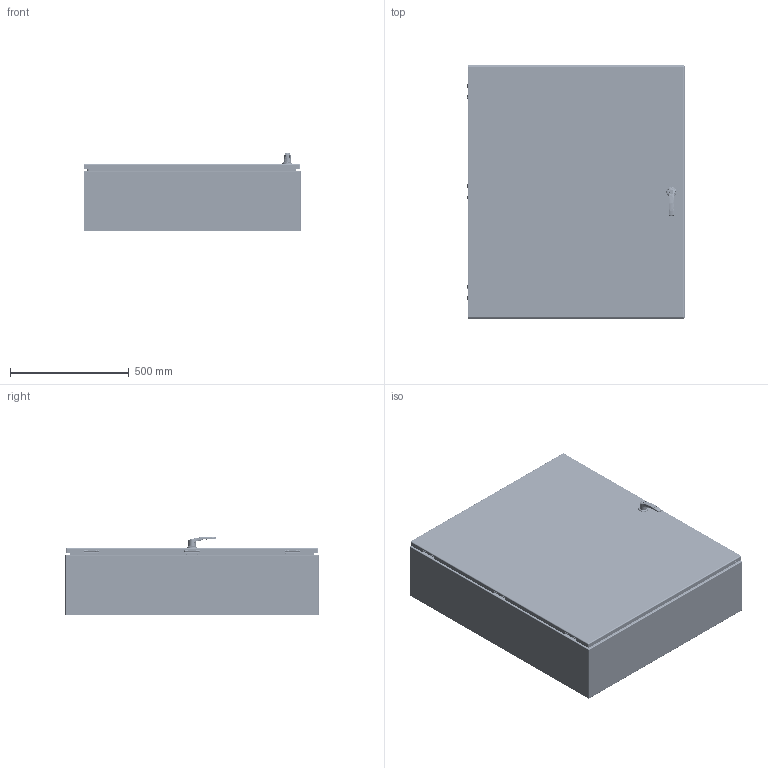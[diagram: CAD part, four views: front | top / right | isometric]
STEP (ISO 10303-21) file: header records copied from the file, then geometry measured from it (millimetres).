
FILE_DESCRIPTION(/* description */ ('5412ES 42" x 36" x 10" Assembly'),/* implementation_level */ '2;1');
FILE_NAME(/* name */ 'C:\Vault_Workspace\Inventor_Dwg\BoxCad\Result\5412ESB423610\e-mail\3D\5412ESB423610.stp',/* time_stamp */ '2022-03-21T18:07:07-04:00',/* author */ ('BoxCad'),/* organization */ (''),/* preprocessor_version */ 'ST-DEVELOPER v18.1',/* originating_system */ 'Autodesk Inventor 2020',/* authorisation */ '');
FILE_SCHEMA (('AUTOMOTIVE_DESIGN { 1 0 10303 214 3 1 1 }'));
Products named in the file (59): 5412ESB423610; 5412ESB423610B; 5412ESB423610B-P; STK-Q-16005; STUD_M6 x 16mm; STK-Q-07610; 881SP4236G; 881SP4236G-P; STK-Q-07310; 5412ESB423610C; 5412ESB423610C-P; 5412ESB423610G; STK-K-09800; STK-K-09800-2; STK-K-09800-3; STK-Q-33014; STK-Q-90398; STK-Q-40095; STK-Q-63410; STK-Q-16405; STK-Q-46020-42; STK-Q-46025-36-3; STK-Q-07220-1; STK-Q-07220-2; STK-Q-07220-3; STK-Q-07220-4; STK-Q-07220-5; STK-Q-07220-6; STK-Q-07220-7; STK-Q-07220-8; STK-Q-07220-9; STK-Q-07220-10; STK-Q-07220-A; STK-Q-07220-B; STK-Q-16055; STK-Q-46515-1; STK-Q-46515-B; STK-Q-46515-A; STK-P-03820R; STK-S-00100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
Assembly tree (131 placements, depth 4):
  5412ESB423610
    5412ESB423610B
      5412ESB423610B-P
      STK-Q-16005  x8
      STK-P-03820R
      STUD_M6 x 16mm
    STK-Q-07610  x8
    881SP4236G
      881SP4236G-P
    STK-Q-07310  x8
    5412ESB423610C
      5412ESB423610C-P
      5412ESB423610G
      STK-K-09800
        STK-Q-33014
        STK-Q-90398
        STK-Q-40095  x2
        STK-Q-63410  x2
      STK-K-09800-2
        STK-Q-33014
        STK-Q-90398
        STK-Q-40095  x2
        STK-Q-63410  x2
      STK-K-09800-3
        STK-Q-33014
        STK-Q-90398
        STK-Q-40095  x2
        STK-Q-63410  x2
      STK-Q-16055  x11
      STK-Q-16405  x2
      STK-Q-46020-42  x2
      STK-Q-46025-36-3  x2
      STK-Q-07220-1
        STK-Q-07220-A
        STK-Q-07220-B
      STK-Q-07220-2
        STK-Q-07220-A
        STK-Q-07220-B
      STK-Q-07220-3
        STK-Q-07220-A
        STK-Q-07220-B
      STK-Q-07220-4
        STK-Q-07220-A
        STK-Q-07220-B
      STK-Q-07220-5
        STK-Q-07220-A
        STK-Q-07220-B
      STK-Q-07220-6
        STK-Q-07220-A
        STK-Q-07220-B
      STK-Q-07220-7
        STK-Q-07220-A
        STK-Q-07220-B
      STK-Q-07220-8
        STK-Q-07220-A
        STK-Q-07220-B
      STK-Q-07220-9
        STK-Q-07220-A
        STK-Q-07220-B
      STK-Q-07220-10
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Bounding box: 914.85 x 1066.8 x 330.59 mm (x, y, z)
Volume: 8508201.9 mm3; surface area: 8840421.7 mm2
Topology: 106 solids, 106 shells, 17405 faces, 47240 edges, 30273 vertices
Faces by surface type: bspline 6709, cylinder 4881, plane 3972, torus 1252, sphere 304, cone 287
Full cylindrical faces by diameter (mm): 0 x1, 0.75 x22, 0.762 x22, 1 x12, 1.1 x12, 1.581 x1, 2.459 x1, 3.2 x6, 4.191 x134, 4.2 x2, 4.5 x11, 4.521 x12, 4.75 x3, 4.85 x24, 4.95 x6, 5 x10, 5.1 x34, 5.105 x13, 5.11 x1, 5.156 x2, 5.6 x3, 5.9 x22, 6.015 x134, 6.65 x8, 6.8 x10, 6.85 x32, 7.112 x6, 7.3 x3, 7.366 x4, 7.468 x2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
Entity records: 214042 total; most frequent: CARTESIAN_POINT 79732, ORIENTED_EDGE 29900, DIRECTION 23637, EDGE_CURVE 14950, VERTEX_POINT 9486, AXIS2_PLACEMENT_3D 8722, EDGE_LOOP 6362, LINE 6193
